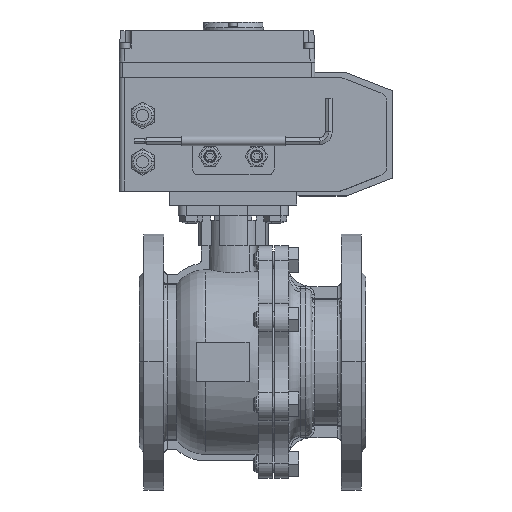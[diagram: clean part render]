
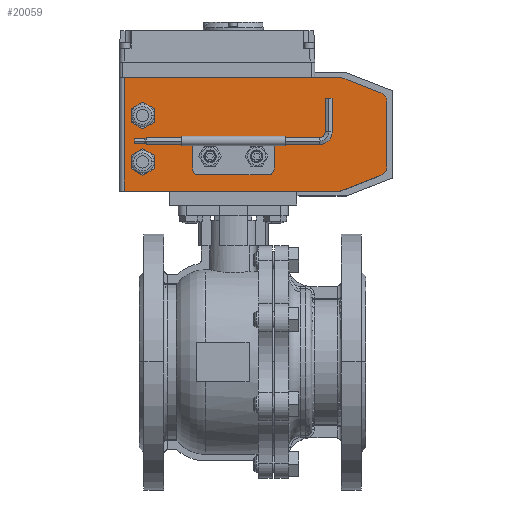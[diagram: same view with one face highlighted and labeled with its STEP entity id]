
A CAD part, top view. The second image highlights one B-rep face of the part: STEP entity #20059.
In plain terms, the highlighted planar face has unit normal (0, 0, 1).
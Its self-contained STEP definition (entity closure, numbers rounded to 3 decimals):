
#15179=DIRECTION('',(0.866,-0.5,0.));
#15180=VECTOR('',#15179,11.547);
#15181=CARTESIAN_POINT('',(-74.,-29.774,0.));
#15182=LINE('',#15181,#15180);
#15183=DIRECTION('',(0.866,0.5,0.));
#15184=VECTOR('',#15183,11.547);
#15185=CARTESIAN_POINT('',(-64.,-35.547,0.));
#15186=LINE('',#15185,#15184);
#15187=DIRECTION('',(0.,1.,0.));
#15188=VECTOR('',#15187,11.547);
#15189=CARTESIAN_POINT('',(-54.,-29.774,0.));
#15190=LINE('',#15189,#15188);
#15191=DIRECTION('',(-0.866,0.5,0.));
#15192=VECTOR('',#15191,11.547);
#15193=CARTESIAN_POINT('',(-54.,-18.226,0.));
#15194=LINE('',#15193,#15192);
#15195=DIRECTION('',(-0.866,-0.5,0.));
#15196=VECTOR('',#15195,11.547);
#15197=CARTESIAN_POINT('',(-64.,-12.453,0.));
#15198=LINE('',#15197,#15196);
#15199=DIRECTION('',(0.,-1.,0.));
#15200=VECTOR('',#15199,11.547);
#15201=CARTESIAN_POINT('',(-74.,-18.226,0.));
#15202=LINE('',#15201,#15200);
#15203=DIRECTION('',(0.866,-0.5,0.));
#15204=VECTOR('',#15203,11.547);
#15205=CARTESIAN_POINT('',(-74.,10.226,0.));
#15206=LINE('',#15205,#15204);
#15207=DIRECTION('',(0.866,0.5,0.));
#15208=VECTOR('',#15207,11.547);
#15209=CARTESIAN_POINT('',(-64.,4.453,0.));
#15210=LINE('',#15209,#15208);
#15211=DIRECTION('',(0.,1.,0.));
#15212=VECTOR('',#15211,11.547);
#15213=CARTESIAN_POINT('',(-54.,10.226,0.));
#15214=LINE('',#15213,#15212);
#15215=DIRECTION('',(-0.866,0.5,0.));
#15216=VECTOR('',#15215,11.547);
#15217=CARTESIAN_POINT('',(-54.,21.774,0.));
#15218=LINE('',#15217,#15216);
#15219=DIRECTION('',(-0.866,-0.5,0.));
#15220=VECTOR('',#15219,11.547);
#15221=CARTESIAN_POINT('',(-64.,27.547,0.));
#15222=LINE('',#15221,#15220);
#15223=DIRECTION('',(0.,-1.,0.));
#15224=VECTOR('',#15223,11.547);
#15225=CARTESIAN_POINT('',(-74.,21.774,0.));
#15226=LINE('',#15225,#15224);
#15227=CARTESIAN_POINT('',(-6.,-19.,0.));
#15228=DIRECTION('',(0.,0.,1.));
#15229=DIRECTION('',(1.,0.,0.));
#15230=AXIS2_PLACEMENT_3D('',#15227,#15228,#15229);
#15232=CARTESIAN_POINT('',(-6.,-19.,0.));
#15233=DIRECTION('',(0.,0.,1.));
#15234=DIRECTION('',(-1.,0.,0.));
#15235=AXIS2_PLACEMENT_3D('',#15232,#15233,#15234);
#15237=CARTESIAN_POINT('',(34.,-19.,0.));
#15238=DIRECTION('',(0.,0.,1.));
#15239=DIRECTION('',(1.,0.,0.));
#15240=AXIS2_PLACEMENT_3D('',#15237,#15238,#15239);
#15242=CARTESIAN_POINT('',(34.,-19.,0.));
#15243=DIRECTION('',(0.,0.,1.));
#15244=DIRECTION('',(-1.,0.,0.));
#15245=AXIS2_PLACEMENT_3D('',#15242,#15243,#15244);
#15247=CARTESIAN_POINT('',(104.504,41.,0.));
#15248=DIRECTION('',(0.,0.,1.));
#15249=DIRECTION('',(0.361,0.932,0.));
#15250=AXIS2_PLACEMENT_3D('',#15247,#15248,#15249);
#15252=DIRECTION('',(-0.932,0.361,0.));
#15253=VECTOR('',#15252,35.923);
#15254=CARTESIAN_POINT('',(140.891,35.48,0.));
#15255=LINE('',#15254,#15253);
#15256=CARTESIAN_POINT('',(138.,28.02,0.));
#15257=DIRECTION('',(0.,0.,1.));
#15258=DIRECTION('',(1.,0.,0.));
#15259=AXIS2_PLACEMENT_3D('',#15256,#15257,#15258);
#15261=DIRECTION('',(0.,1.,0.));
#15262=VECTOR('',#15261,56.041);
#15263=CARTESIAN_POINT('',(146.,-28.02,0.));
#15264=LINE('',#15263,#15262);
#15265=CARTESIAN_POINT('',(138.,-28.02,0.));
#15266=DIRECTION('',(0.,0.,1.));
#15267=DIRECTION('',(0.361,-0.932,0.));
#15268=AXIS2_PLACEMENT_3D('',#15265,#15266,#15267);
#15270=DIRECTION('',(0.932,0.361,0.));
#15271=VECTOR('',#15270,35.923);
#15272=CARTESIAN_POINT('',(107.395,-48.46,0.));
#15273=LINE('',#15272,#15271);
#15274=CARTESIAN_POINT('',(104.504,-41.,0.));
#15275=DIRECTION('',(0.,0.,1.));
#15276=DIRECTION('',(0.,-1.,0.));
#15277=AXIS2_PLACEMENT_3D('',#15274,#15275,#15276);
#15279=DIRECTION('',(1.,0.,0.));
#15280=VECTOR('',#15279,184.504);
#15281=CARTESIAN_POINT('',(-80.,-49.,0.));
#15282=LINE('',#15281,#15280);
#16044=DIRECTION('',(-1.,0.,0.));
#16045=VECTOR('',#16044,184.504);
#16046=CARTESIAN_POINT('',(104.504,49.,0.));
#16047=LINE('',#16046,#16045);
#16688=DIRECTION('',(0.,-1.,0.));
#16689=VECTOR('',#16688,98.);
#16690=CARTESIAN_POINT('',(-80.,49.,0.));
#16691=LINE('',#16690,#16689);
#18872=CARTESIAN_POINT('',(-80.,-49.,0.));
#18874=VERTEX_POINT('',#18872);
#18888=CARTESIAN_POINT('',(107.395,48.46,0.));
#18889=CARTESIAN_POINT('',(104.504,49.,0.));
#18890=VERTEX_POINT('',#18888);
#18891=VERTEX_POINT('',#18889);
#18892=CARTESIAN_POINT('',(146.,28.02,0.));
#18893=CARTESIAN_POINT('',(140.891,35.48,0.));
#18894=VERTEX_POINT('',#18892);
#18895=VERTEX_POINT('',#18893);
#18896=CARTESIAN_POINT('',(140.891,-35.48,0.));
#18897=CARTESIAN_POINT('',(146.,-28.02,0.));
#18898=VERTEX_POINT('',#18896);
#18899=VERTEX_POINT('',#18897);
#18900=CARTESIAN_POINT('',(104.504,-49.,0.));
#18901=CARTESIAN_POINT('',(107.395,-48.46,0.));
#18902=VERTEX_POINT('',#18900);
#18903=VERTEX_POINT('',#18901);
#19340=CARTESIAN_POINT('',(-74.,-29.774,0.));
#19341=CARTESIAN_POINT('',(-64.,-35.547,0.));
#19342=VERTEX_POINT('',#19340);
#19343=VERTEX_POINT('',#19341);
#19344=CARTESIAN_POINT('',(-54.,-29.774,0.));
#19345=VERTEX_POINT('',#19344);
#19346=CARTESIAN_POINT('',(-54.,-18.226,0.));
#19347=VERTEX_POINT('',#19346);
#19348=CARTESIAN_POINT('',(-64.,-12.453,0.));
#19349=VERTEX_POINT('',#19348);
#19350=CARTESIAN_POINT('',(-74.,-18.226,0.));
#19351=VERTEX_POINT('',#19350);
#19424=CARTESIAN_POINT('',(-74.,10.226,0.));
#19425=VERTEX_POINT('',#19424);
#19426=CARTESIAN_POINT('',(-64.,4.453,0.));
#19427=VERTEX_POINT('',#19426);
#19428=CARTESIAN_POINT('',(-54.,10.226,0.));
#19429=VERTEX_POINT('',#19428);
#19430=CARTESIAN_POINT('',(-54.,21.774,0.));
#19431=VERTEX_POINT('',#19430);
#19432=CARTESIAN_POINT('',(-64.,27.547,0.));
#19433=VERTEX_POINT('',#19432);
#19434=CARTESIAN_POINT('',(-74.,21.774,0.));
#19435=VERTEX_POINT('',#19434);
#19504=CARTESIAN_POINT('',(-1.,-19.,0.));
#19505=CARTESIAN_POINT('',(-11.,-19.,0.));
#19506=VERTEX_POINT('',#19504);
#19507=VERTEX_POINT('',#19505);
#19508=CARTESIAN_POINT('',(39.,-19.,0.));
#19509=CARTESIAN_POINT('',(29.,-19.,0.));
#19510=VERTEX_POINT('',#19508);
#19511=VERTEX_POINT('',#19509);
#19968=CARTESIAN_POINT('',(-80.,49.,0.));
#19969=VERTEX_POINT('',#19968);
#19992=CARTESIAN_POINT('',(0.,0.,0.));
#19993=DIRECTION('',(0.,0.,1.));
#19994=DIRECTION('',(1.,0.,0.));
#19995=AXIS2_PLACEMENT_3D('',#19992,#19993,#19994);
#19996=PLANE('',#19995);
#19998=ORIENTED_EDGE('',*,*,#19997,.F.);
#20000=ORIENTED_EDGE('',*,*,#19999,.F.);
#20002=ORIENTED_EDGE('',*,*,#20001,.F.);
#20004=ORIENTED_EDGE('',*,*,#20003,.F.);
#20006=ORIENTED_EDGE('',*,*,#20005,.F.);
#20008=ORIENTED_EDGE('',*,*,#20007,.F.);
#20010=ORIENTED_EDGE('',*,*,#20009,.F.);
#20012=ORIENTED_EDGE('',*,*,#20011,.F.);
#20014=ORIENTED_EDGE('',*,*,#20013,.F.);
#20016=ORIENTED_EDGE('',*,*,#20015,.F.);
#20017=EDGE_LOOP('',(#19998,#20000,#20002,#20004,#20006,#20008,#20010,#20012,
#20014,#20016));
#20018=FACE_OUTER_BOUND('',#20017,.F.);
#20020=ORIENTED_EDGE('',*,*,#20019,.T.);
#20022=ORIENTED_EDGE('',*,*,#20021,.T.);
#20024=ORIENTED_EDGE('',*,*,#20023,.T.);
#20026=ORIENTED_EDGE('',*,*,#20025,.T.);
#20028=ORIENTED_EDGE('',*,*,#20027,.T.);
#20030=ORIENTED_EDGE('',*,*,#20029,.T.);
#20031=EDGE_LOOP('',(#20020,#20022,#20024,#20026,#20028,#20030));
#20032=FACE_BOUND('',#20031,.F.);
#20034=ORIENTED_EDGE('',*,*,#20033,.T.);
#20036=ORIENTED_EDGE('',*,*,#20035,.T.);
#20038=ORIENTED_EDGE('',*,*,#20037,.T.);
#20040=ORIENTED_EDGE('',*,*,#20039,.T.);
#20042=ORIENTED_EDGE('',*,*,#20041,.T.);
#20044=ORIENTED_EDGE('',*,*,#20043,.T.);
#20045=EDGE_LOOP('',(#20034,#20036,#20038,#20040,#20042,#20044));
#20046=FACE_BOUND('',#20045,.F.);
#20048=ORIENTED_EDGE('',*,*,#20047,.T.);
#20050=ORIENTED_EDGE('',*,*,#20049,.T.);
#20051=EDGE_LOOP('',(#20048,#20050));
#20052=FACE_BOUND('',#20051,.F.);
#20054=ORIENTED_EDGE('',*,*,#20053,.T.);
#20056=ORIENTED_EDGE('',*,*,#20055,.T.);
#20057=EDGE_LOOP('',(#20054,#20056));
#20058=FACE_BOUND('',#20057,.F.);
#20059=ADVANCED_FACE('',(#20018,#20032,#20046,#20052,#20058),#19996,.T.);
#15231=CIRCLE('',#15230,5.);
#15236=CIRCLE('',#15235,5.);
#15241=CIRCLE('',#15240,5.);
#15246=CIRCLE('',#15245,5.);
#15251=CIRCLE('',#15250,8.);
#15260=CIRCLE('',#15259,8.);
#15269=CIRCLE('',#15268,8.);
#15278=CIRCLE('',#15277,8.);
#19997=EDGE_CURVE('',#18891,#19969,#16047,.T.);
#19999=EDGE_CURVE('',#18890,#18891,#15251,.T.);
#20001=EDGE_CURVE('',#18895,#18890,#15255,.T.);
#20003=EDGE_CURVE('',#18894,#18895,#15260,.T.);
#20005=EDGE_CURVE('',#18899,#18894,#15264,.T.);
#20007=EDGE_CURVE('',#18898,#18899,#15269,.T.);
#20009=EDGE_CURVE('',#18903,#18898,#15273,.T.);
#20011=EDGE_CURVE('',#18902,#18903,#15278,.T.);
#20013=EDGE_CURVE('',#18874,#18902,#15282,.T.);
#20015=EDGE_CURVE('',#19969,#18874,#16691,.T.);
#20019=EDGE_CURVE('',#19342,#19343,#15182,.T.);
#20021=EDGE_CURVE('',#19343,#19345,#15186,.T.);
#20023=EDGE_CURVE('',#19345,#19347,#15190,.T.);
#20025=EDGE_CURVE('',#19347,#19349,#15194,.T.);
#20027=EDGE_CURVE('',#19349,#19351,#15198,.T.);
#20029=EDGE_CURVE('',#19351,#19342,#15202,.T.);
#20033=EDGE_CURVE('',#19425,#19427,#15206,.T.);
#20035=EDGE_CURVE('',#19427,#19429,#15210,.T.);
#20037=EDGE_CURVE('',#19429,#19431,#15214,.T.);
#20039=EDGE_CURVE('',#19431,#19433,#15218,.T.);
#20041=EDGE_CURVE('',#19433,#19435,#15222,.T.);
#20043=EDGE_CURVE('',#19435,#19425,#15226,.T.);
#20047=EDGE_CURVE('',#19506,#19507,#15231,.T.);
#20049=EDGE_CURVE('',#19507,#19506,#15236,.T.);
#20053=EDGE_CURVE('',#19510,#19511,#15241,.T.);
#20055=EDGE_CURVE('',#19511,#19510,#15246,.T.);
